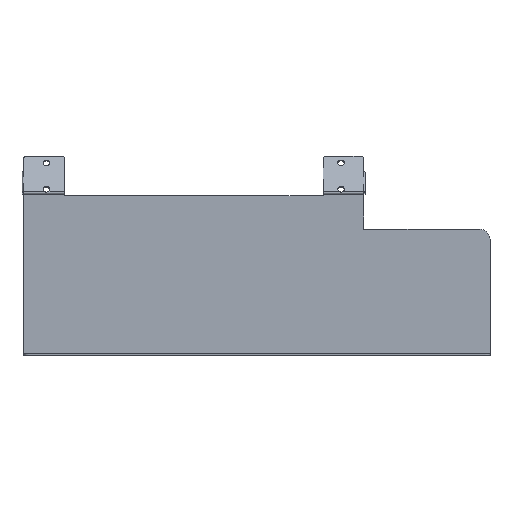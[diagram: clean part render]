
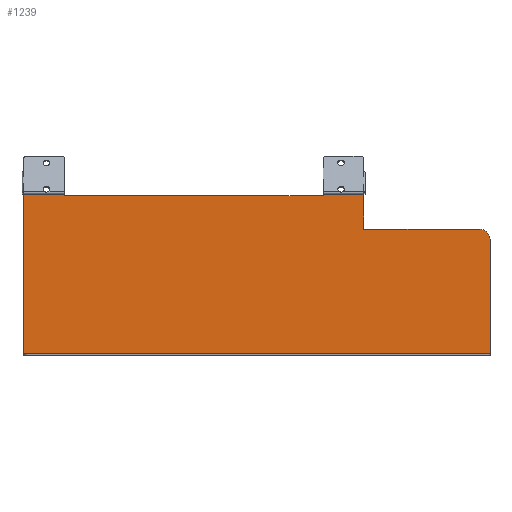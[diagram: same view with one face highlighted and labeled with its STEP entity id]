
A CAD part, top view. The second image highlights one B-rep face of the part: STEP entity #1239.
In plain terms, the highlighted planar face has unit normal (0, 0, 1).
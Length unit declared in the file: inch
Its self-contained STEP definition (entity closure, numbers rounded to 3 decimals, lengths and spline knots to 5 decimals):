
#24 = EDGE_LOOP ( 'NONE', ( #2964, #2293, #3011, #1976, #469, #2760, #604, #721, #3032, #660, #2639 ) ) ;
#53 = CARTESIAN_POINT ( 'NONE',  ( 6.145, 3.8563, 0. ) ) ;
#102 = EDGE_CURVE ( 'NONE', #3113, #3131, #2480, .T. ) ;
#112 = CARTESIAN_POINT ( 'NONE',  ( 14.075, 1.705, 0. ) ) ;
#154 = DIRECTION ( 'NONE',  ( 0., -1., 0. ) ) ;
#194 = CARTESIAN_POINT ( 'NONE',  ( -8.075, -3.7123, 0. ) ) ;
#210 = VECTOR ( 'NONE', #1628, 39.37008 ) ;
#270 = VERTEX_POINT ( 'NONE', #112 ) ;
#323 = VERTEX_POINT ( 'NONE', #194 ) ;
#326 = VERTEX_POINT ( 'NONE', #1417 ) ;
#368 = CARTESIAN_POINT ( 'NONE',  ( 8.075, 2.205, 0. ) ) ;
#438 = VECTOR ( 'NONE', #881, 39.37008 ) ;
#455 = LINE ( 'NONE', #3053, #1712 ) ;
#458 = DIRECTION ( 'NONE',  ( 1., 0., 0. ) ) ;
#469 = ORIENTED_EDGE ( 'NONE', *, *, #102, .T. ) ;
#604 = ORIENTED_EDGE ( 'NONE', *, *, #1728, .F. ) ;
#653 = DIRECTION ( 'NONE',  ( -1., 0., 0. ) ) ;
#660 = ORIENTED_EDGE ( 'NONE', *, *, #934, .F. ) ;
#721 = ORIENTED_EDGE ( 'NONE', *, *, #2290, .T. ) ;
#786 = CARTESIAN_POINT ( 'NONE',  ( 6.145, 3.8563, 0. ) ) ;
#857 = CARTESIAN_POINT ( 'NONE',  ( 6.145, 3.795, 0. ) ) ;
#872 = VERTEX_POINT ( 'NONE', #857 ) ;
#881 = DIRECTION ( 'NONE',  ( 0., 1., 0. ) ) ;
#902 = LINE ( 'NONE', #2088, #1533 ) ;
#915 = CARTESIAN_POINT ( 'NONE',  ( 13.575, 1.705, 0. ) ) ;
#934 = EDGE_CURVE ( 'NONE', #1806, #2976, #455, .T. ) ;
#958 = DIRECTION ( 'NONE',  ( 1., 0., 0. ) ) ;
#977 = AXIS2_PLACEMENT_3D ( 'NONE', #915, #2611, #1162 ) ;
#980 = DIRECTION ( 'NONE',  ( 0., 1., 0. ) ) ;
#990 = VECTOR ( 'NONE', #1116, 39.37008 ) ;
#1024 = LINE ( 'NONE', #2677, #2890 ) ;
#1062 = LINE ( 'NONE', #2147, #2930 ) ;
#1082 = CARTESIAN_POINT ( 'NONE',  ( 13.575, 2.205, 0. ) ) ;
#1085 = EDGE_CURVE ( 'NONE', #2094, #323, #902, .T. ) ;
#1089 = EDGE_CURVE ( 'NONE', #872, #2976, #2175, .T. ) ;
#1116 = DIRECTION ( 'NONE',  ( 1., 0., 0. ) ) ;
#1130 = DIRECTION ( 'NONE',  ( -1., 0., 0. ) ) ;
#1134 = CARTESIAN_POINT ( 'NONE',  ( 14.075, -3.7123, 0. ) ) ;
#1135 = EDGE_CURVE ( 'NONE', #270, #3113, #1949, .T. ) ;
#1162 = DIRECTION ( 'NONE',  ( 1., 0., 0. ) ) ;
#1237 = CARTESIAN_POINT ( 'NONE',  ( 8.075, 3.8563, 0. ) ) ;
#1239 = ADVANCED_FACE ( 'NONE', ( #2536 ), #1649, .T. ) ;
#1371 = DIRECTION ( 'NONE',  ( -1., 0., 0. ) ) ;
#1417 = CARTESIAN_POINT ( 'NONE',  ( -8.075, 3.8563, 0. ) ) ;
#1466 = VECTOR ( 'NONE', #1371, 39.37008 ) ;
#1520 = VERTEX_POINT ( 'NONE', #1237 ) ;
#1533 = VECTOR ( 'NONE', #653, 39.37008 ) ;
#1613 = CARTESIAN_POINT ( 'NONE',  ( -8.075, 3.795, 0. ) ) ;
#1628 = DIRECTION ( 'NONE',  ( 0., -1., 0. ) ) ;
#1632 = LINE ( 'NONE', #3059, #990 ) ;
#1633 = CARTESIAN_POINT ( 'NONE',  ( 13.575, 1.705, 0. ) ) ;
#1649 = PLANE ( 'NONE',  #1769 ) ;
#1712 = VECTOR ( 'NONE', #154, 39.37008 ) ;
#1728 = EDGE_CURVE ( 'NONE', #2237, #1520, #1632, .T. ) ;
#1736 = EDGE_CURVE ( 'NONE', #2094, #270, #2188, .T. ) ;
#1769 = AXIS2_PLACEMENT_3D ( 'NONE', #1633, #1882, #458 ) ;
#1782 = EDGE_CURVE ( 'NONE', #326, #323, #2037, .T. ) ;
#1806 = VERTEX_POINT ( 'NONE', #3101 ) ;
#1825 = VECTOR ( 'NONE', #1130, 39.37008 ) ;
#1882 = DIRECTION ( 'NONE',  ( 0., 0., 1. ) ) ;
#1949 = CIRCLE ( 'NONE', #977, 0.5 ) ;
#1976 = ORIENTED_EDGE ( 'NONE', *, *, #1135, .T. ) ;
#2037 = LINE ( 'NONE', #3089, #210 ) ;
#2088 = CARTESIAN_POINT ( 'NONE',  ( 14.075, -3.7123, 0. ) ) ;
#2094 = VERTEX_POINT ( 'NONE', #1134 ) ;
#2147 = CARTESIAN_POINT ( 'NONE',  ( -8.075, 3.8563, 0. ) ) ;
#2175 = LINE ( 'NONE', #1613, #1466 ) ;
#2180 = CARTESIAN_POINT ( 'NONE',  ( -6.145, 3.795, 0. ) ) ;
#2188 = LINE ( 'NONE', #2573, #438 ) ;
#2191 = LINE ( 'NONE', #786, #2364 ) ;
#2237 = VERTEX_POINT ( 'NONE', #53 ) ;
#2290 = EDGE_CURVE ( 'NONE', #2237, #872, #2191, .T. ) ;
#2293 = ORIENTED_EDGE ( 'NONE', *, *, #1085, .F. ) ;
#2364 = VECTOR ( 'NONE', #2490, 39.37008 ) ;
#2480 = LINE ( 'NONE', #2629, #1825 ) ;
#2490 = DIRECTION ( 'NONE',  ( 0., -1., 0. ) ) ;
#2536 = FACE_OUTER_BOUND ( 'NONE', #24, .T. ) ;
#2573 = CARTESIAN_POINT ( 'NONE',  ( 14.075, -3.795, 0. ) ) ;
#2611 = DIRECTION ( 'NONE',  ( 0., 0., 1. ) ) ;
#2629 = CARTESIAN_POINT ( 'NONE',  ( 13.575, 2.205, 0. ) ) ;
#2639 = ORIENTED_EDGE ( 'NONE', *, *, #2709, .F. ) ;
#2677 = CARTESIAN_POINT ( 'NONE',  ( 8.075, 2.205, 0. ) ) ;
#2709 = EDGE_CURVE ( 'NONE', #326, #1806, #1062, .T. ) ;
#2760 = ORIENTED_EDGE ( 'NONE', *, *, #2951, .T. ) ;
#2890 = VECTOR ( 'NONE', #980, 39.37008 ) ;
#2930 = VECTOR ( 'NONE', #958, 39.37008 ) ;
#2951 = EDGE_CURVE ( 'NONE', #3131, #1520, #1024, .T. ) ;
#2964 = ORIENTED_EDGE ( 'NONE', *, *, #1782, .T. ) ;
#2976 = VERTEX_POINT ( 'NONE', #2180 ) ;
#3011 = ORIENTED_EDGE ( 'NONE', *, *, #1736, .T. ) ;
#3032 = ORIENTED_EDGE ( 'NONE', *, *, #1089, .T. ) ;
#3053 = CARTESIAN_POINT ( 'NONE',  ( -6.145, 3.8563, 0. ) ) ;
#3059 = CARTESIAN_POINT ( 'NONE',  ( 6.145, 3.8563, 0. ) ) ;
#3089 = CARTESIAN_POINT ( 'NONE',  ( -8.075, -3.795, 0. ) ) ;
#3101 = CARTESIAN_POINT ( 'NONE',  ( -6.145, 3.8563, 0. ) ) ;
#3113 = VERTEX_POINT ( 'NONE', #1082 ) ;
#3131 = VERTEX_POINT ( 'NONE', #368 ) ;
